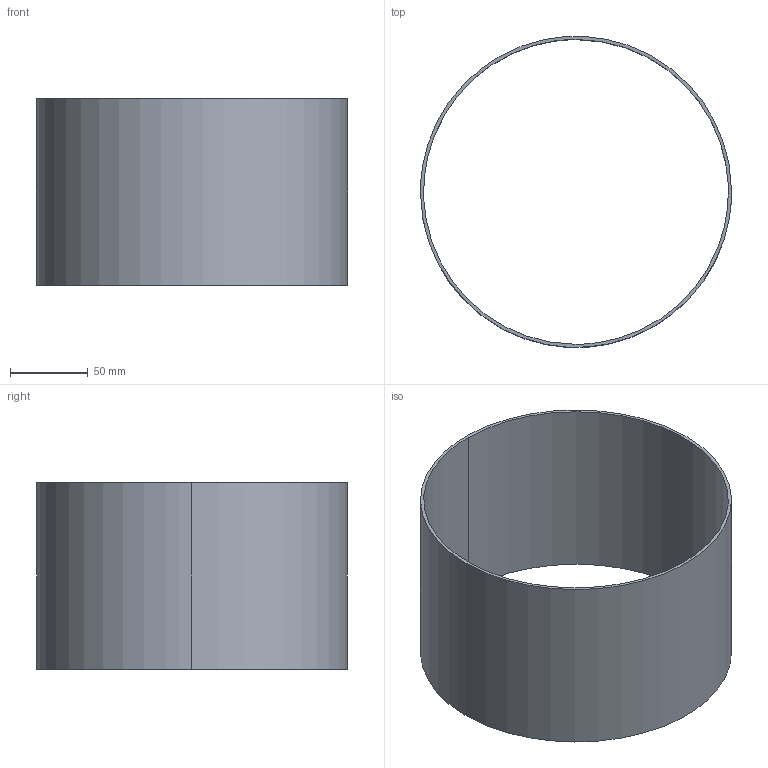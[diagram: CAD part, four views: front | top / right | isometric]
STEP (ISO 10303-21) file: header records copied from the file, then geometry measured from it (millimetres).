
FILE_DESCRIPTION(/* description */ (''),/* implementation_level */ '2;1');
FILE_NAME(/* name */ 'TEST3~1',/* time_stamp */ '2019-11-27T20:11:09-07:00',/* author */ (''),/* organization */ (''),/* preprocessor_version */ 'ST-DEVELOPER v15',/* originating_system */ '',/* authorisation */ '');
FILE_SCHEMA (('AUTOMOTIVE_DESIGN'));
Length unit declared in the file: millimetre
Products named in the file (1): Document
Bounding box: 200 x 199.63 x 120 mm (x, y, z)
Volume: 145694 mm3; surface area: 151800.3 mm2
Topology: 1 solids, 1 shells, 6 faces, 12 edges, 8 vertices
Faces by surface type: bspline 4, plane 2
Entity records: 210 total; most frequent: CARTESIAN_POINT 100, ORIENTED_EDGE 24, EDGE_CURVE 12, EDGE_LOOP 8, VERTEX_POINT 8, ADVANCED_FACE 6, FACE_OUTER_BOUND 6, DIRECTION 6
